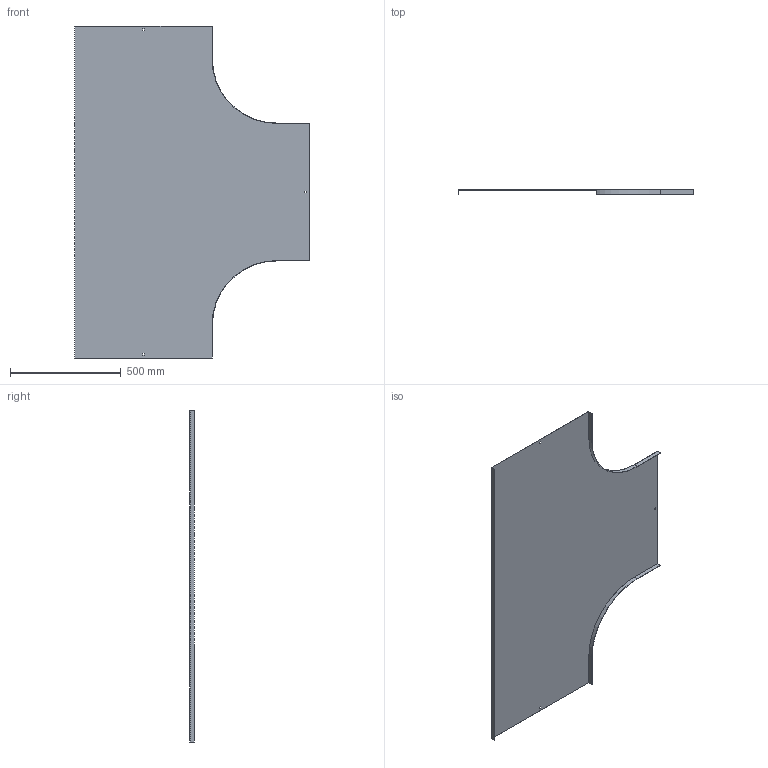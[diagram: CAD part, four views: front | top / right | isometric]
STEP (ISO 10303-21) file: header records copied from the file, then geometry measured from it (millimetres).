
FILE_DESCRIPTION (( 'STEP AP214' ), '1' );
FILE_NAME ('15N3P600.step', '2025-02-21T13:55:52', ( '' ), ( '' ), 'SwSTEP 2.0', 'SolidWorks 2023', '' );
FILE_SCHEMA (( 'AUTOMOTIVE_DESIGN' ));
Length unit declared in the file: millimetre
Products named in the file (1): 15N3P600
Bounding box: 1061.5 x 20 x 1500 mm (x, y, z)
Volume: 1948342 mm3; surface area: 2605408.3 mm2
Topology: 1 solids, 1 shells, 34 faces, 96 edges, 64 vertices
Faces by surface type: plane 30, cylinder 4
Entity records: 1123 total; most frequent: CARTESIAN_POINT 195, ORIENTED_EDGE 192, DIRECTION 174, EDGE_CURVE 96, LINE 88, VECTOR 88, VERTEX_POINT 64, AXIS2_PLACEMENT_3D 43
